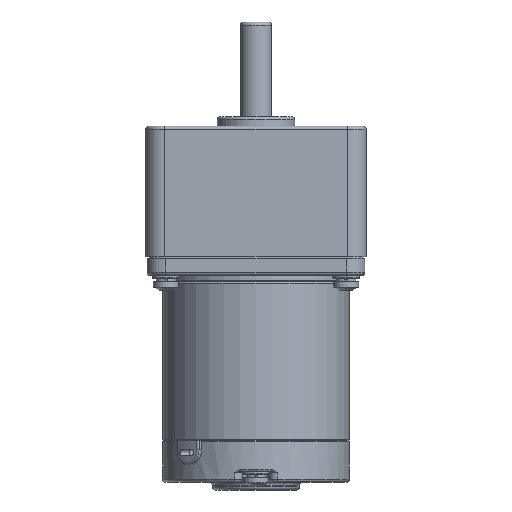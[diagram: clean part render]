
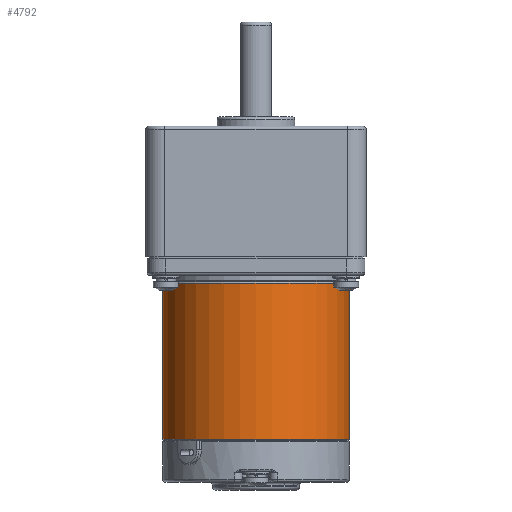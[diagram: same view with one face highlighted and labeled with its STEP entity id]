
A CAD part, front view. The second image highlights one B-rep face of the part: STEP entity #4792.
In plain terms, the highlighted cylindrical face has radius 30 mm (diameter 60 mm), a partial arc.
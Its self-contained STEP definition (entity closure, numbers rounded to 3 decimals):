
#633 = EDGE_CURVE ( 'NONE', #10660, #6914, #5202, .T. ) ;
#651 = CIRCLE ( 'NONE', #7262, 30. ) ;
#1151 = CARTESIAN_POINT ( 'NONE',  ( 0., 50.5, -30. ) ) ;
#1232 = DIRECTION ( 'NONE',  ( 0., 1., 0. ) ) ;
#1627 = AXIS2_PLACEMENT_3D ( 'NONE', #3957, #10663, #10774 ) ;
#1716 = EDGE_CURVE ( 'NONE', #8340, #10660, #4763, .T. ) ;
#2023 = DIRECTION ( 'NONE',  ( 0., 0., 1. ) ) ;
#2352 = CARTESIAN_POINT ( 'NONE',  ( 0., 0., 30. ) ) ;
#2358 = CARTESIAN_POINT ( 'NONE',  ( 0., 0., -30. ) ) ;
#2969 = CYLINDRICAL_SURFACE ( 'NONE', #10889, 30. ) ;
#3244 = DIRECTION ( 'NONE',  ( 0., 1., 0. ) ) ;
#3957 = CARTESIAN_POINT ( 'NONE',  ( 0., 50.5, 0. ) ) ;
#4118 = ORIENTED_EDGE ( 'NONE', *, *, #4922, .F. ) ;
#4282 = VECTOR ( 'NONE', #3244, 1000. ) ;
#4398 = EDGE_LOOP ( 'NONE', ( #10562, #9970, #10680, #4118 ) ) ;
#4696 = CARTESIAN_POINT ( 'NONE',  ( 0., 0.3, 0. ) ) ;
#4763 = LINE ( 'NONE', #2358, #8100 ) ;
#4792 = ADVANCED_FACE ( 'NONE', ( #7990 ), #2969, .T. ) ;
#4922 = EDGE_CURVE ( 'NONE', #9472, #6914, #7422, .T. ) ;
#5202 = CIRCLE ( 'NONE', #1627, 30. ) ;
#6370 = EDGE_CURVE ( 'NONE', #9472, #8340, #651, .T. ) ;
#6914 = VERTEX_POINT ( 'NONE', #8636 ) ;
#7262 = AXIS2_PLACEMENT_3D ( 'NONE', #4696, #10673, #8099 ) ;
#7422 = LINE ( 'NONE', #2352, #4282 ) ;
#7859 = CARTESIAN_POINT ( 'NONE',  ( 0., 0.3, -30. ) ) ;
#7989 = CARTESIAN_POINT ( 'NONE',  ( 0., 0.3, 30. ) ) ;
#7990 = FACE_OUTER_BOUND ( 'NONE', #4398, .T. ) ;
#8099 = DIRECTION ( 'NONE',  ( 0., 0., 1. ) ) ;
#8100 = VECTOR ( 'NONE', #8546, 1000. ) ;
#8340 = VERTEX_POINT ( 'NONE', #7859 ) ;
#8546 = DIRECTION ( 'NONE',  ( 0., 1., 0. ) ) ;
#8636 = CARTESIAN_POINT ( 'NONE',  ( 0., 50.5, 30. ) ) ;
#8933 = CARTESIAN_POINT ( 'NONE',  ( 0., 0., 0. ) ) ;
#9472 = VERTEX_POINT ( 'NONE', #7989 ) ;
#9970 = ORIENTED_EDGE ( 'NONE', *, *, #1716, .T. ) ;
#10562 = ORIENTED_EDGE ( 'NONE', *, *, #6370, .T. ) ;
#10660 = VERTEX_POINT ( 'NONE', #1151 ) ;
#10663 = DIRECTION ( 'NONE',  ( 0., -1., 0. ) ) ;
#10673 = DIRECTION ( 'NONE',  ( 0., 1., 0. ) ) ;
#10680 = ORIENTED_EDGE ( 'NONE', *, *, #633, .T. ) ;
#10774 = DIRECTION ( 'NONE',  ( 0., 0., 1. ) ) ;
#10889 = AXIS2_PLACEMENT_3D ( 'NONE', #8933, #1232, #2023 ) ;
